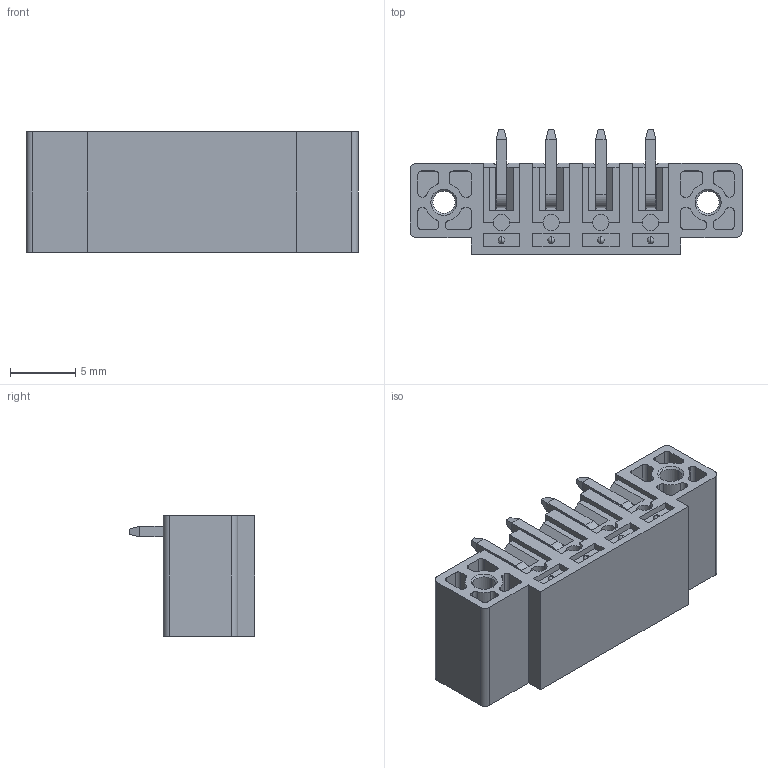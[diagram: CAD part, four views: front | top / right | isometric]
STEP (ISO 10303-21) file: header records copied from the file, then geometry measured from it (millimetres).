
FILE_DESCRIPTION(('Open CASCADE Model'),'2;1');
FILE_NAME('Open CASCADE Shape Model','2024-03-15T13:14:27',('Author'),( 'Open CASCADE'),'Open CASCADE STEP processor 6.5','Open CASCADE 6.5' ,'Unknown');
FILE_SCHEMA(('AUTOMOTIVE_DESIGN { 1 0 10303 214 1 1 1 1 }'));
Length unit declared in the file: millimetre
Products named in the file (1029): CADSOFTTOOLS 1; CADSOFTTOOLS 1.1; CADSOFTTOOLS 1.2; CADSOFTTOOLS 1.3; CADSOFTTOOLS 1.4; CADSOFTTOOLS 1.5; CADSOFTTOOLS 1.6; CADSOFTTOOLS 1.7; CADSOFTTOOLS 1.8; CADSOFTTOOLS 1.9; CADSOFTTOOLS 1.10; CADSOFTTOOLS 1.11; CADSOFTTOOLS 1.12; CADSOFTTOOLS 1.13; CADSOFTTOOLS 1.14; CADSOFTTOOLS 1.15; CADSOFTTOOLS 1.16; CADSOFTTOOLS 1.17; CADSOFTTOOLS 1.18; CADSOFTTOOLS 1.19; CADSOFTTOOLS 1.20; CADSOFTTOOLS 1.21; CADSOFTTOOLS 1.22; CADSOFTTOOLS 1.23; CADSOFTTOOLS 1.24; CADSOFTTOOLS 1.25; CADSOFTTOOLS 1.26; CADSOFTTOOLS 1.27; CADSOFTTOOLS 1.28; CADSOFTTOOLS 1.29; CADSOFTTOOLS 1.30; CADSOFTTOOLS 1.31; CADSOFTTOOLS 1.32; CADSOFTTOOLS 1.33; CADSOFTTOOLS 1.34; CADSOFTTOOLS 1.35; CADSOFTTOOLS 1.36; CADSOFTTOOLS 1.37; CADSOFTTOOLS 1.38; CADSOFTTOOLS 1.39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
Assembly tree (1028 placements, depth 2):
  CADSOFTTOOLS 1
    CADSOFTTOOLS 1.1
    CADSOFTTOOLS 1.2
    CADSOFTTOOLS 1.3
    CADSOFTTOOLS 1.4
    CADSOFTTOOLS 1.5
    CADSOFTTOOLS 1.6
    CADSOFTTOOLS 1.7
    CADSOFTTOOLS 1.8
    CADSOFTTOOLS 1.9
    CADSOFTTOOLS 1.10
    CADSOFTTOOLS 1.11
    CADSOFTTOOLS 1.12
    CADSOFTTOOLS 1.13
    CADSOFTTOOLS 1.14
    CADSOFTTOOLS 1.15
    CADSOFTTOOLS 1.16
    CADSOFTTOOLS 1.17
    CADSOFTTOOLS 1.18
    CADSOFTTOOLS 1.19
    CADSOFTTOOLS 1.20
    CADSOFTTOOLS 1.21
    CADSOFTTOOLS 1.22
    CADSOFTTOOLS 1.23
    CADSOFTTOOLS 1.24
    CADSOFTTOOLS 1.25
    CADSOFTTOOLS 1.26
    CADSOFTTOOLS 1.27
    CADSOFTTOOLS 1.28
    CADSOFTTOOLS 1.29
    CADSOFTTOOLS 1.30
    CADSOFTTOOLS 1.31
    CADSOFTTOOLS 1.32
    CADSOFTTOOLS 1.33
    CADSOFTTOOLS 1.34
    CADSOFTTOOLS 1.35
    CADSOFTTOOLS 1.36
    CADSOFTTOOLS 1.37
    CADSOFTTOOLS 1.38
    CADSOFTTOOLS 1.39
    CADSOFTTOOLS 1.40
    CADSOFTTOOLS 1.41
    CADSOFTTOOLS 1.42
    CADSOFTTOOLS 1.43
    CADSOFTTOOLS 1.44
    CADSOFTTOOLS 1.45
    CADSOFTTOOLS 1.46
    CADSOFTTOOLS 1.47
    CADSOFTTOOLS 1.48
    CADSOFTTOOLS 1.49
    CADSOFTTOOLS 1.50
    CADSOFTTOOLS 1.51
    CADSOFTTOOLS 1.52
    CADSOFTTOOLS 1.53
    CADSOFTTOOLS 1.54
    CADSOFTTOOLS 1.55
    CADSOFTTOOLS 1.56
    CADSOFTTOOLS 1.57
    CADSOFTTOOLS 1.58
    CADSOFTTOOLS 1.59
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Bounding box: 25.43 x 9.6 x 9.2 mm (x, y, z)
Surface area: 2266.1 mm2 (no closed solid volume)
Topology: 0 solids, 1028 shells, 1028 faces, 6380 edges, 6372 vertices
Faces by surface type: plane 756, bspline 180, cylinder 48, cone 36, sphere 8
Entity records: 199050 total; most frequent: CARTESIAN_POINT 104870, DIRECTION 13905, LINE 6684, VECTOR 6684, ORIENTED_EDGE 6372, EDGE_CURVE 6372, VERTEX_POINT 6372, SURFACE_CURVE 6372
